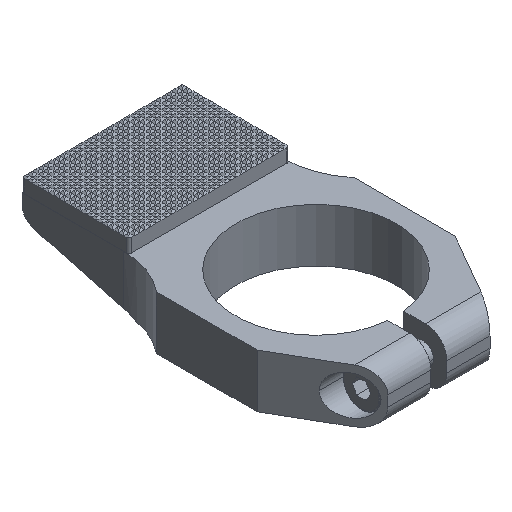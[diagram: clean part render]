
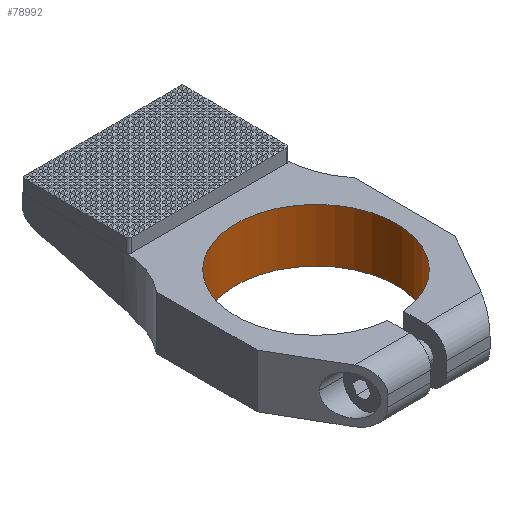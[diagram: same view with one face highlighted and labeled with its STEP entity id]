
A CAD part, isometric view. The second image highlights one B-rep face of the part: STEP entity #78992.
In plain terms, the highlighted cylindrical face has radius 15 mm (diameter 30 mm), a partial arc.
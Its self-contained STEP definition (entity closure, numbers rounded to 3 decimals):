
#5534 = DIRECTION ( 'NONE',  ( 1., 0., 0. ) ) ;
#7806 = VERTEX_POINT ( 'NONE', #78711 ) ;
#13643 = EDGE_CURVE ( 'NONE', #7806, #83651, #78488, .T. ) ;
#14212 = EDGE_CURVE ( 'NONE', #115103, #72654, #84326, .T. ) ;
#15322 = DIRECTION ( 'NONE',  ( 0., 0., 1. ) ) ;
#23980 = VECTOR ( 'NONE', #58441, 1000. ) ;
#27560 = CARTESIAN_POINT ( 'NONE',  ( 29.5, -119.082, -127.325 ) ) ;
#30522 = DIRECTION ( 'NONE',  ( 0., -1., 0. ) ) ;
#38609 = DIRECTION ( 'NONE',  ( 0., 0., 1. ) ) ;
#40483 = AXIS2_PLACEMENT_3D ( 'NONE', #128117, #66831, #5534 ) ;
#49761 = AXIS2_PLACEMENT_3D ( 'NONE', #76738, #15322, #87031 ) ;
#51967 = CARTESIAN_POINT ( 'NONE',  ( 29.5, -119.082, -117.325 ) ) ;
#52930 = CYLINDRICAL_SURFACE ( 'NONE', #53360, 15. ) ;
#53360 = AXIS2_PLACEMENT_3D ( 'NONE', #91923, #38609, #30522 ) ;
#55712 = ORIENTED_EDGE ( 'NONE', *, *, #13643, .F. ) ;
#56534 = CARTESIAN_POINT ( 'NONE',  ( 26.5, -119.082, -117.325 ) ) ;
#58441 = DIRECTION ( 'NONE',  ( 0., 0., 1. ) ) ;
#63935 = CIRCLE ( 'NONE', #40483, 15. ) ;
#65174 = ORIENTED_EDGE ( 'NONE', *, *, #118856, .F. ) ;
#65730 = FACE_OUTER_BOUND ( 'NONE', #123347, .T. ) ;
#66831 = DIRECTION ( 'NONE',  ( 0., 0., 1. ) ) ;
#67683 = CARTESIAN_POINT ( 'NONE',  ( 29.5, -119.082, -122.325 ) ) ;
#72654 = VERTEX_POINT ( 'NONE', #27560 ) ;
#76738 = CARTESIAN_POINT ( 'NONE',  ( 28., -104.157, -127.325 ) ) ;
#78488 = LINE ( 'NONE', #99114, #23980 ) ;
#78711 = CARTESIAN_POINT ( 'NONE',  ( 26.5, -119.082, -127.325 ) ) ;
#78992 = ADVANCED_FACE ( 'NONE', ( #65730 ), #52930, .F. ) ;
#83651 = VERTEX_POINT ( 'NONE', #56534 ) ;
#84326 = LINE ( 'NONE', #67683, #108280 ) ;
#87031 = DIRECTION ( 'NONE',  ( -1., 0., 0. ) ) ;
#91923 = CARTESIAN_POINT ( 'NONE',  ( 28., -104.157, -126.325 ) ) ;
#93835 = CIRCLE ( 'NONE', #49761, 15. ) ;
#98909 = ORIENTED_EDGE ( 'NONE', *, *, #130035, .T. ) ;
#99114 = CARTESIAN_POINT ( 'NONE',  ( 26.5, -119.082, -122.325 ) ) ;
#108280 = VECTOR ( 'NONE', #128935, 1000. ) ;
#115103 = VERTEX_POINT ( 'NONE', #51967 ) ;
#118856 = EDGE_CURVE ( 'NONE', #72654, #7806, #93835, .T. ) ;
#123347 = EDGE_LOOP ( 'NONE', ( #98909, #55712, #65174, #124317 ) ) ;
#124317 = ORIENTED_EDGE ( 'NONE', *, *, #14212, .F. ) ;
#128117 = CARTESIAN_POINT ( 'NONE',  ( 28., -104.157, -117.325 ) ) ;
#128935 = DIRECTION ( 'NONE',  ( 0., 0., -1. ) ) ;
#130035 = EDGE_CURVE ( 'NONE', #115103, #83651, #63935, .T. ) ;
